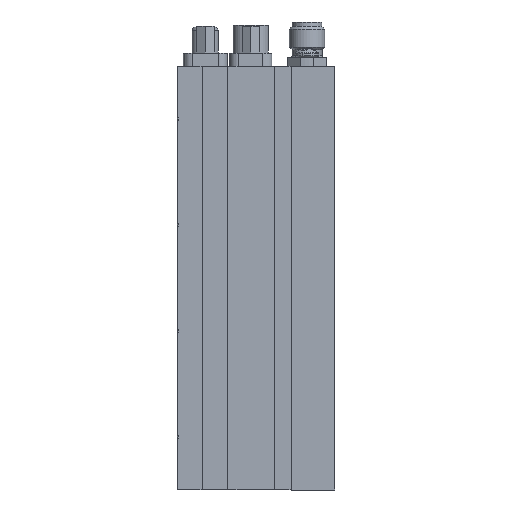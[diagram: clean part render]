
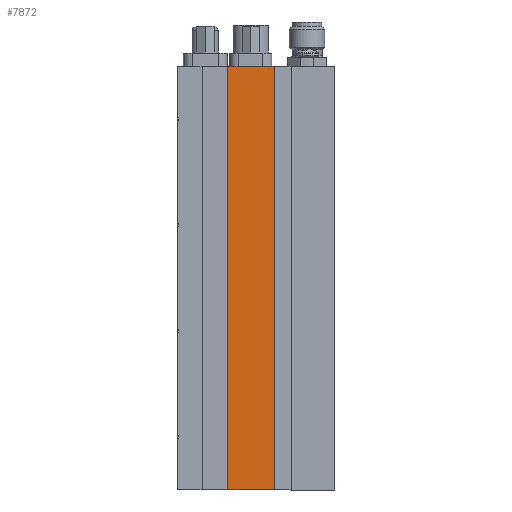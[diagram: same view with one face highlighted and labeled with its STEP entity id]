
A CAD part, left-side view. The second image highlights one B-rep face of the part: STEP entity #7872.
In plain terms, the highlighted planar face has unit normal (-1, 0, 0).
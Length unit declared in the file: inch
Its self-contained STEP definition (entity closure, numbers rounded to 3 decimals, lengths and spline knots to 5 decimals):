
#2415 = CARTESIAN_POINT ( 'NONE',  ( -0.9069, 0.5553, -1.51805 ) ) ;
#2416 = PLANE ( 'NONE',  #7428 ) ;
#2425 = DIRECTION ( 'NONE',  ( 1., 0., 0. ) ) ;
#2426 = DIRECTION ( 'NONE',  ( 0., 0., -1. ) ) ;
#4968 = VERTEX_POINT ( 'NONE', #32295 ) ;
#4971 = VERTEX_POINT ( 'NONE', #32298 ) ;
#5037 = VERTEX_POINT ( 'NONE', #32358 ) ;
#7428 = AXIS2_PLACEMENT_3D ( 'NONE', #2415, #2425, #2426 ) ;
#7872 = ADVANCED_FACE ( 'NONE', ( #11045 ), #2416, .F. ) ;
#9174 = EDGE_LOOP ( 'NONE', ( #39131, #39132, #39133, #39134 ) ) ;
#11045 = FACE_OUTER_BOUND ( 'NONE', #9174, .T. ) ;
#16721 = CARTESIAN_POINT ( 'NONE',  ( -0.9069, 0.5553, 1.48195 ) ) ;
#22461 = VERTEX_POINT ( 'NONE', #16721 ) ;
#24157 = CARTESIAN_POINT ( 'NONE',  ( -0.9069, 0.5553, -1.51805 ) ) ;
#24158 = DIRECTION ( 'NONE',  ( 0., 0., 1. ) ) ;
#24433 = LINE ( 'NONE', #24157, #24436 ) ;
#24436 = VECTOR ( 'NONE', #24158, 39.37008 ) ;
#24456 = LINE ( 'NONE', #25150, #24458 ) ;
#24458 = VECTOR ( 'NONE', #25151, 39.37008 ) ;
#24503 = LINE ( 'NONE', #25246, #24506 ) ;
#24506 = VECTOR ( 'NONE', #25247, 39.37008 ) ;
#24507 = LINE ( 'NONE', #25239, #24509 ) ;
#24509 = VECTOR ( 'NONE', #25238, 39.37008 ) ;
#25150 = CARTESIAN_POINT ( 'NONE',  ( -0.9069, 0.5553, -1.51805 ) ) ;
#25151 = DIRECTION ( 'NONE',  ( 0., -1., 0. ) ) ;
#25238 = DIRECTION ( 'NONE',  ( 0., -1., 0. ) ) ;
#25239 = CARTESIAN_POINT ( 'NONE',  ( -0.9069, 0.5553, 1.48195 ) ) ;
#25246 = CARTESIAN_POINT ( 'NONE',  ( -0.9069, 0.2253, -1.51805 ) ) ;
#25247 = DIRECTION ( 'NONE',  ( 0., 0., 1. ) ) ;
#32295 = CARTESIAN_POINT ( 'NONE',  ( -0.9069, 0.5553, -1.51805 ) ) ;
#32298 = CARTESIAN_POINT ( 'NONE',  ( -0.9069, 0.2253, -1.51805 ) ) ;
#32358 = CARTESIAN_POINT ( 'NONE',  ( -0.9069, 0.2253, 1.48195 ) ) ;
#35239 = EDGE_CURVE ( 'NONE', #4968, #22461, #24433, .T. ) ;
#35257 = EDGE_CURVE ( 'NONE', #4968, #4971, #24456, .T. ) ;
#35291 = EDGE_CURVE ( 'NONE', #4971, #5037, #24503, .T. ) ;
#35293 = EDGE_CURVE ( 'NONE', #22461, #5037, #24507, .T. ) ;
#39131 = ORIENTED_EDGE ( 'NONE', *, *, #35291, .T. ) ;
#39132 = ORIENTED_EDGE ( 'NONE', *, *, #35293, .F. ) ;
#39133 = ORIENTED_EDGE ( 'NONE', *, *, #35239, .F. ) ;
#39134 = ORIENTED_EDGE ( 'NONE', *, *, #35257, .T. ) ;
